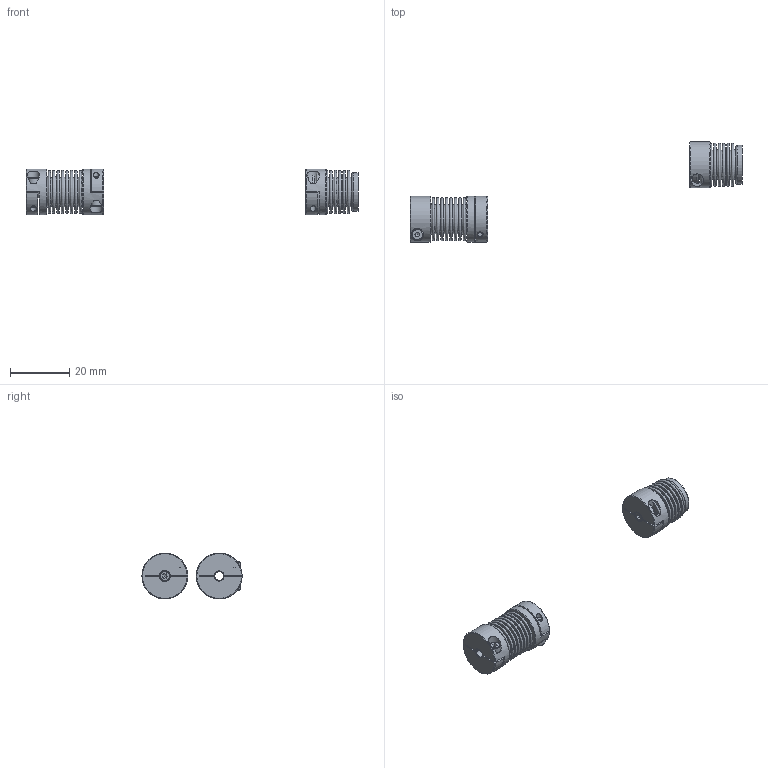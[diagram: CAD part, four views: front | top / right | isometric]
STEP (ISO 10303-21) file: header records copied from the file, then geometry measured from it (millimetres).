
FILE_DESCRIPTION( ( 'Unknown' ), '1' );
FILE_NAME( 'C:/Dokumente und Einstellungen/Sven/Desktop/cad - homepage/KB2/KB2-10-26.stp', 'Unknown', ( 'Unknown' ), ( 'Unknown' ), 'XStep 1.0', 'Unknown', ' ' );
FILE_SCHEMA( ( 'automotive_design' ) );
Length unit declared in the file: millimetre
Products named in the file (4): Assem1; BM10_Standard; KN10_Standard_0; Socket Head Cap Screw_DIN_DIN 912 M2 x 8 --- 8N_0
Bounding box: 112.35 x 33.89 x 15.5 mm (x, y, z)
Volume: 3967.6 mm3; surface area: 11436.3 mm2
Topology: 8 solids, 8 shells, 292 faces, 572 edges, 371 vertices
Faces by surface type: plane 154, torus 82, cylinder 38, cone 18
Full cylindrical faces by diameter (mm): 2 x6, 2.2 x3, 3 x3, 3.8 x3, 12.9 x4, 13.1 x4, 15.5 x3
Entity records: 3157 total; most frequent: CARTESIAN_POINT 559, DIRECTION 538, ORIENTED_EDGE 344, AXIS2_PLACEMENT_3D 246, EDGE_LOOP 222, FACE_OUTER_BOUND 174, EDGE_CURVE 172, VERTEX_POINT 145
